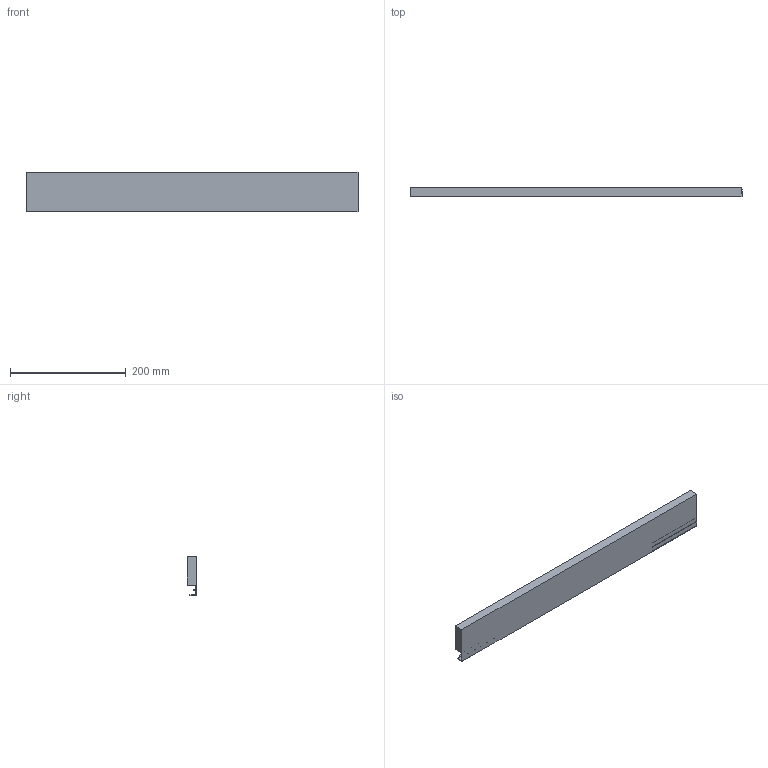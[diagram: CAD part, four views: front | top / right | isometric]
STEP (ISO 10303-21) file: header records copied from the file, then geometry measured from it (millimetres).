
FILE_DESCRIPTION (( 'STEP AP214' ), '1' );
FILE_NAME ('Innenschub-Blendenprofil_KAB700_S18.step', '2010-09-23T12:27:00', ( 'grass' ), ( '' ), 'SwSTEP 2.0', 'SolidWorks 2010', '' );
FILE_SCHEMA (( 'AUTOMOTIVE_DESIGN' ));
Length unit declared in the file: millimetre
Products named in the file (1): Innenschub-Blendenprofil_KAB700_S18
Bounding box: 573 x 15.9 x 67.6 mm (x, y, z)
Volume: 475101.3 mm3; surface area: 114115.6 mm2
Topology: 1 solids, 1 shells, 17 faces, 42 edges, 28 vertices
Faces by surface type: plane 15, cylinder 2
Entity records: 534 total; most frequent: CARTESIAN_POINT 88, ORIENTED_EDGE 84, DIRECTION 82, EDGE_CURVE 42, VECTOR 38, LINE 38, VERTEX_POINT 28, AXIS2_PLACEMENT_3D 22
